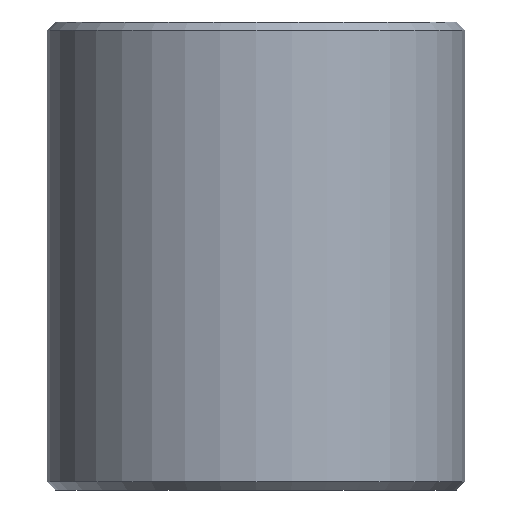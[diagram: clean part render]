
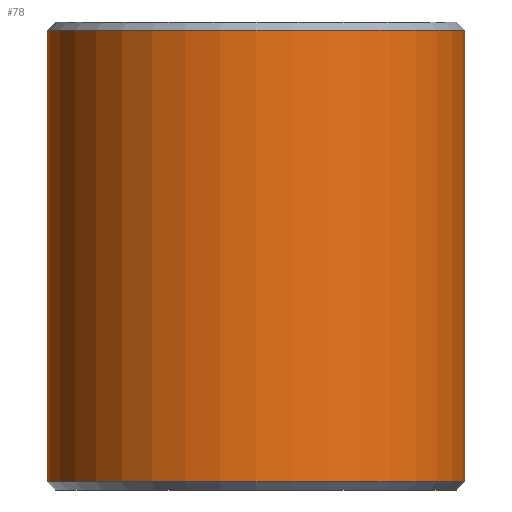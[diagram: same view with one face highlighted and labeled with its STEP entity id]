
A CAD part, front view. The second image highlights one B-rep face of the part: STEP entity #78.
In plain terms, the highlighted cylindrical face has radius 12.5 mm (diameter 25 mm), a full revolution.
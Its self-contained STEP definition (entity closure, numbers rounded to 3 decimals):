
#78=ADVANCED_FACE('',(#91,#92),#93,.T.);
#91=FACE_OUTER_BOUND('',#109,.T.);
#92=FACE_OUTER_BOUND('',#110,.T.);
#93=CYLINDRICAL_SURFACE('',#111,12.5);
#109=EDGE_LOOP('',(#133));
#110=EDGE_LOOP('',(#134));
#111=AXIS2_PLACEMENT_3D('',#135,#136,#137);
#133=ORIENTED_EDGE('',*,*,#152,.T.);
#134=ORIENTED_EDGE('',*,*,#153,.T.);
#135=CARTESIAN_POINT('',(0.0,0.0,14.0));
#136=DIRECTION('',(-0.0,-0.0,1.0));
#137=DIRECTION('',(-1.0,0.0,0.0));
#152=EDGE_CURVE('',#162,#162,#163,.F.);
#153=EDGE_CURVE('',#164,#164,#165,.T.);
#162=VERTEX_POINT('',#174);
#163=CIRCLE('',#175,12.5);
#164=VERTEX_POINT('',#176);
#165=CIRCLE('',#177,12.5);
#174=CARTESIAN_POINT('',(12.5,0.,13.5));
#175=AXIS2_PLACEMENT_3D('',#190,#191,#192);
#176=CARTESIAN_POINT('',(12.5,0.0,-13.5));
#177=AXIS2_PLACEMENT_3D('',#193,#194,#195);
#190=CARTESIAN_POINT('',(0.0,0.0,13.5));
#191=DIRECTION('',(0.0,0.0,1.0));
#192=DIRECTION('',(1.0,0.0,0.0));
#193=CARTESIAN_POINT('',(0.0,0.0,-13.5));
#194=DIRECTION('',(0.0,0.0,1.0));
#195=DIRECTION('',(1.0,0.0,0.0));
